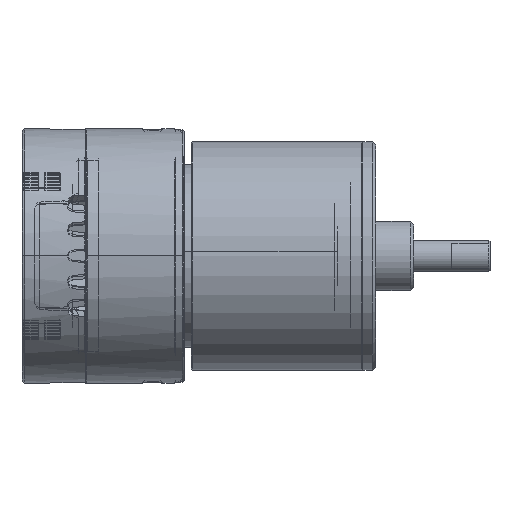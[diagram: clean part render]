
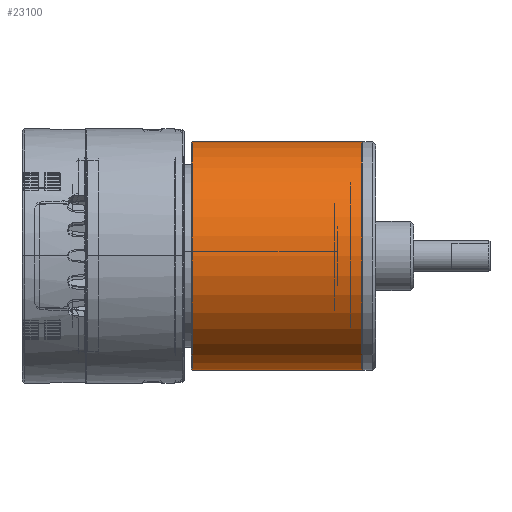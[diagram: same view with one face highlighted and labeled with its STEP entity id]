
A CAD part, top view. The second image highlights one B-rep face of the part: STEP entity #23100.
In plain terms, the highlighted cylindrical face has radius 18 mm (diameter 36 mm), a partial arc.
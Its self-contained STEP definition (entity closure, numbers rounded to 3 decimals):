
#1595 = ORIENTED_EDGE ( 'NONE', *, *, #53419, .F. ) ;
#1640 = CARTESIAN_POINT ( 'NONE',  ( -41.143, 2.167, -6.797 ) ) ;
#2016 = ORIENTED_EDGE ( 'NONE', *, *, #45094, .T. ) ;
#4946 = AXIS2_PLACEMENT_3D ( 'NONE', #52962, #12100, #24067 ) ;
#6096 = DIRECTION ( 'NONE',  ( 0., 0., -1. ) ) ;
#6953 = VERTEX_POINT ( 'NONE', #24926 ) ;
#7511 = LINE ( 'NONE', #11331, #11982 ) ;
#7770 = ORIENTED_EDGE ( 'NONE', *, *, #15692, .T. ) ;
#7924 = LINE ( 'NONE', #24759, #44696 ) ;
#9623 = DIRECTION ( 'NONE',  ( 0., -1., 0. ) ) ;
#11331 = CARTESIAN_POINT ( 'NONE',  ( -41.143, 28.967, -6.797 ) ) ;
#11982 = VECTOR ( 'NONE', #52165, 1000. ) ;
#12100 = DIRECTION ( 'NONE',  ( 0., 1., 0. ) ) ;
#14631 = CIRCLE ( 'NONE', #20683, 18. ) ;
#15692 = EDGE_CURVE ( 'NONE', #40560, #6953, #7924, .T. ) ;
#16653 = EDGE_LOOP ( 'NONE', ( #2016, #7770, #43981, #1595 ) ) ;
#17503 = VERTEX_POINT ( 'NONE', #43202 ) ;
#19560 = CARTESIAN_POINT ( 'NONE',  ( -41.143, 28.767, 11.203 ) ) ;
#20683 = AXIS2_PLACEMENT_3D ( 'NONE', #19560, #27971, #40517 ) ;
#23100 = ADVANCED_FACE ( 'NONE', ( #34637 ), #50462, .T. ) ;
#24067 = DIRECTION ( 'NONE',  ( 0., 0., 1. ) ) ;
#24759 = CARTESIAN_POINT ( 'NONE',  ( -41.143, 28.967, 29.203 ) ) ;
#24926 = CARTESIAN_POINT ( 'NONE',  ( -41.143, 2.167, 29.203 ) ) ;
#27971 = DIRECTION ( 'NONE',  ( 0., -1., 0. ) ) ;
#30140 = CIRCLE ( 'NONE', #4946, 18. ) ;
#30832 = CARTESIAN_POINT ( 'NONE',  ( -41.143, 28.967, 11.203 ) ) ;
#34637 = FACE_OUTER_BOUND ( 'NONE', #16653, .T. ) ;
#39084 = AXIS2_PLACEMENT_3D ( 'NONE', #30832, #9623, #6096 ) ;
#40517 = DIRECTION ( 'NONE',  ( 0., 0., 1. ) ) ;
#40560 = VERTEX_POINT ( 'NONE', #46832 ) ;
#41113 = DIRECTION ( 'NONE',  ( 0., -1., 0. ) ) ;
#43202 = CARTESIAN_POINT ( 'NONE',  ( -41.143, 28.767, -6.797 ) ) ;
#43981 = ORIENTED_EDGE ( 'NONE', *, *, #51663, .T. ) ;
#44696 = VECTOR ( 'NONE', #41113, 1000. ) ;
#45094 = EDGE_CURVE ( 'NONE', #17503, #40560, #14631, .T. ) ;
#46353 = VERTEX_POINT ( 'NONE', #1640 ) ;
#46832 = CARTESIAN_POINT ( 'NONE',  ( -41.143, 28.767, 29.203 ) ) ;
#50462 = CYLINDRICAL_SURFACE ( 'NONE', #39084, 18. ) ;
#51663 = EDGE_CURVE ( 'NONE', #6953, #46353, #30140, .T. ) ;
#52165 = DIRECTION ( 'NONE',  ( 0., -1., 0. ) ) ;
#52962 = CARTESIAN_POINT ( 'NONE',  ( -41.143, 2.167, 11.203 ) ) ;
#53419 = EDGE_CURVE ( 'NONE', #17503, #46353, #7511, .T. ) ;
